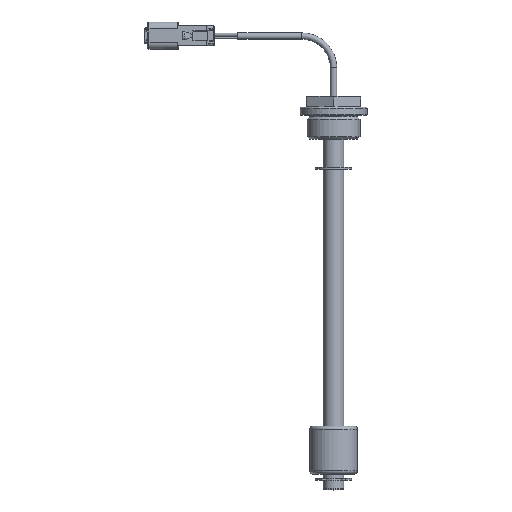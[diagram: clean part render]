
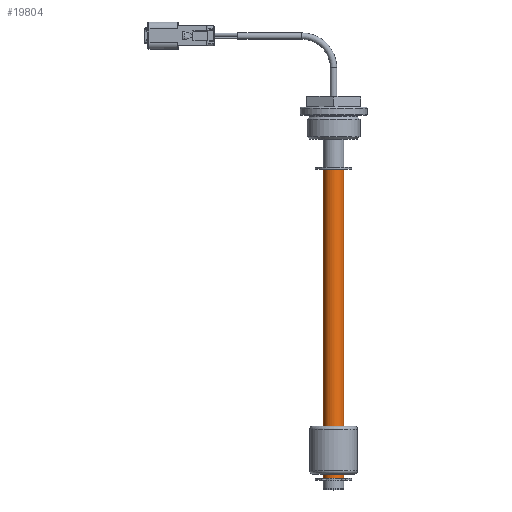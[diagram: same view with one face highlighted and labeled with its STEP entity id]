
A CAD part, top view. The second image highlights one B-rep face of the part: STEP entity #19804.
In plain terms, the highlighted cylindrical face has radius 6.5 mm (diameter 13 mm), a full revolution.
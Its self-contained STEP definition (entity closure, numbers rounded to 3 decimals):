
#29 = DIRECTION ( 'NONE',  ( 0., 0., 1. ) ) ;
#326 = CARTESIAN_POINT ( 'NONE',  ( 0., -19., 6.5 ) ) ;
#905 = AXIS2_PLACEMENT_3D ( 'NONE', #15356, #10530, #29 ) ;
#2111 = VERTEX_POINT ( 'NONE', #326 ) ;
#2696 = ORIENTED_EDGE ( 'NONE', *, *, #10992, .T. ) ;
#3989 = DIRECTION ( 'NONE',  ( 0., -1., 0. ) ) ;
#4834 = EDGE_CURVE ( 'NONE', #2111, #2111, #11261, .T. ) ;
#5127 = AXIS2_PLACEMENT_3D ( 'NONE', #10214, #13710, #11779 ) ;
#8683 = DIRECTION ( 'NONE',  ( 0., 0., -1. ) ) ;
#9143 = VERTEX_POINT ( 'NONE', #11038 ) ;
#10214 = CARTESIAN_POINT ( 'NONE',  ( 0., -212.6, 0. ) ) ;
#10530 = DIRECTION ( 'NONE',  ( 0., 1., 0. ) ) ;
#10762 = EDGE_LOOP ( 'NONE', ( #11639 ) ) ;
#10992 = EDGE_CURVE ( 'NONE', #9143, #9143, #17973, .T. ) ;
#11038 = CARTESIAN_POINT ( 'NONE',  ( 0., -212.6, 6.5 ) ) ;
#11261 = CIRCLE ( 'NONE', #905, 6.5 ) ;
#11639 = ORIENTED_EDGE ( 'NONE', *, *, #4834, .F. ) ;
#11779 = DIRECTION ( 'NONE',  ( 0., 0., 1. ) ) ;
#12065 = CARTESIAN_POINT ( 'NONE',  ( 0., -239.889, 0. ) ) ;
#12291 = FACE_OUTER_BOUND ( 'NONE', #21219, .T. ) ;
#13710 = DIRECTION ( 'NONE',  ( 0., 1., 0. ) ) ;
#15356 = CARTESIAN_POINT ( 'NONE',  ( 0., -19., 0. ) ) ;
#15752 = CYLINDRICAL_SURFACE ( 'NONE', #19031, 6.5 ) ;
#17973 = CIRCLE ( 'NONE', #5127, 6.5 ) ;
#19031 = AXIS2_PLACEMENT_3D ( 'NONE', #12065, #3989, #8683 ) ;
#19085 = FACE_OUTER_BOUND ( 'NONE', #10762, .T. ) ;
#19804 = ADVANCED_FACE ( 'NONE', ( #19085, #12291 ), #15752, .T. ) ;
#21219 = EDGE_LOOP ( 'NONE', ( #2696 ) ) ;
